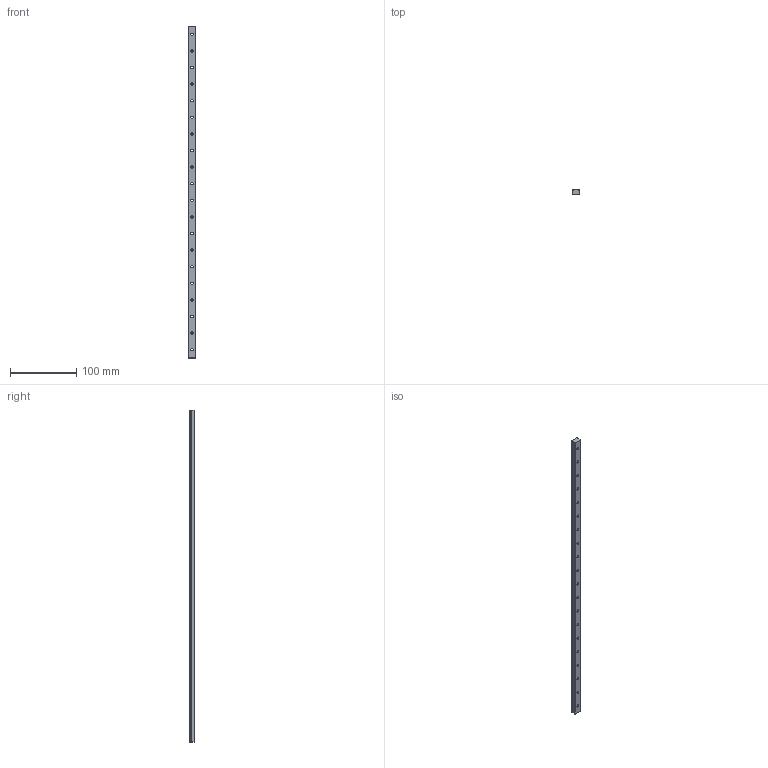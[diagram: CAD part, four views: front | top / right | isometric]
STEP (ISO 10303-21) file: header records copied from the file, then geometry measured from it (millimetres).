
FILE_DESCRIPTION(/* description */ (''),/* implementation_level */ '2;1');
FILE_NAME(/* name */ 'C:\Users\daviddillkoetter\ownCloud\Kamp und Kötter\Artikel\Miniaturfuehrungen_KPM\Step\KPMR-12C-500.stp',/* time_stamp */ '2020-12-07T12:27:22+01:00',/* author */ ('daviddillkoetter'),/* organization */ (''),/* preprocessor_version */ 'ST-DEVELOPER v18.1',/* originating_system */ 'Autodesk Inventor 2021',/* authorisation */ '');
FILE_SCHEMA (('AUTOMOTIVE_DESIGN { 1 0 10303 214 3 1 1 }'));
Length unit declared in the file: millimetre
Products named in the file (1): KPMR
Bounding box: 12 x 8 x 500 mm (x, y, z)
Volume: 43373.5 mm3; surface area: 23586.6 mm2
Topology: 1 solids, 1 shells, 174 faces, 388 edges, 236 vertices
Faces by surface type: plane 70, cone 56, cylinder 48
Full cylindrical faces by diameter (mm): 3.5 x20, 6 x20
Entity records: 4937 total; most frequent: DIRECTION 894, CARTESIAN_POINT 847, ORIENTED_EDGE 776, EDGE_CURVE 388, AXIS2_PLACEMENT_3D 347, VERTEX_POINT 236, EDGE_LOOP 234, LINE 200
